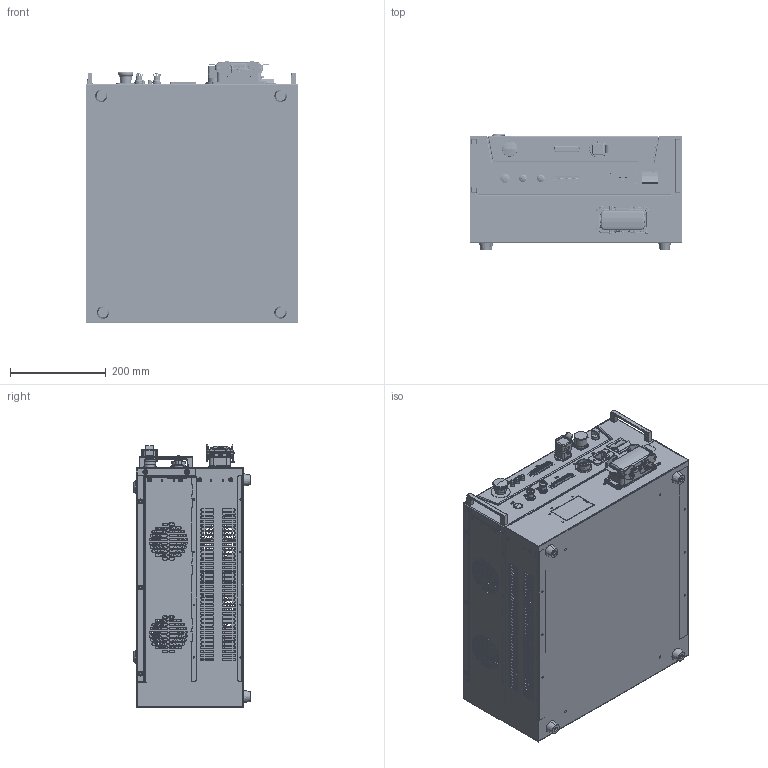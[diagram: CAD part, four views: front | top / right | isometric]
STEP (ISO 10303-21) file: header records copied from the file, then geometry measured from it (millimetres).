
FILE_DESCRIPTION(('STEP AP214'),'1');
FILE_NAME('.stp','2020-05-11T05:56:56',(' '),(' '),'Spatial InterOp 3D',' ',' ');
FILE_SCHEMA(('AUTOMOTIVE_DESIGN { 1 0 10303 214 1 1 1 1 }'));
Length unit declared in the file: millimetre
Products named in the file (332): 紧凑柜; noname
Assembly tree (331 placements, depth 2):
  紧凑柜
    noname
    noname
    noname
    noname
    noname
    noname
    noname
    noname
    noname
    noname
    noname
    noname
    noname
    noname
    noname
    noname
    noname
    noname
    noname
    noname
    noname
    noname
    noname
    noname
    noname
    noname
    noname
    noname
    noname
    noname
    noname
    noname
    noname
    noname
    noname
    noname
    noname
    noname
    noname
    noname
    noname
    noname
    noname
    noname
    noname
    noname
    noname
    noname
    noname
    noname
    noname
    noname
    noname
    noname
    noname
    noname
    noname
    noname
    noname
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Bounding box: 445 x 243.62 x 548.15 mm (x, y, z)
Surface area: 2403038.8 mm2
Topology: 2 solids, 333 shells, 2793 faces, 11990 edges, 9288 vertices
Faces by surface type: cylinder 1446, plane 1041, cone 149, revolution 70, bspline 61, torus 20, sphere 6
Full cylindrical faces by diameter (mm): 1 x1, 5 x4
Entity records: 212961 total; most frequent: CARTESIAN_POINT 87044, DIRECTION 18094, ORIENTED_EDGE 17341, EDGE_CURVE 11932, VERTEX_POINT 9303, LINE 6252, VECTOR 6252, AXIS2_PLACEMENT_3D 5886
